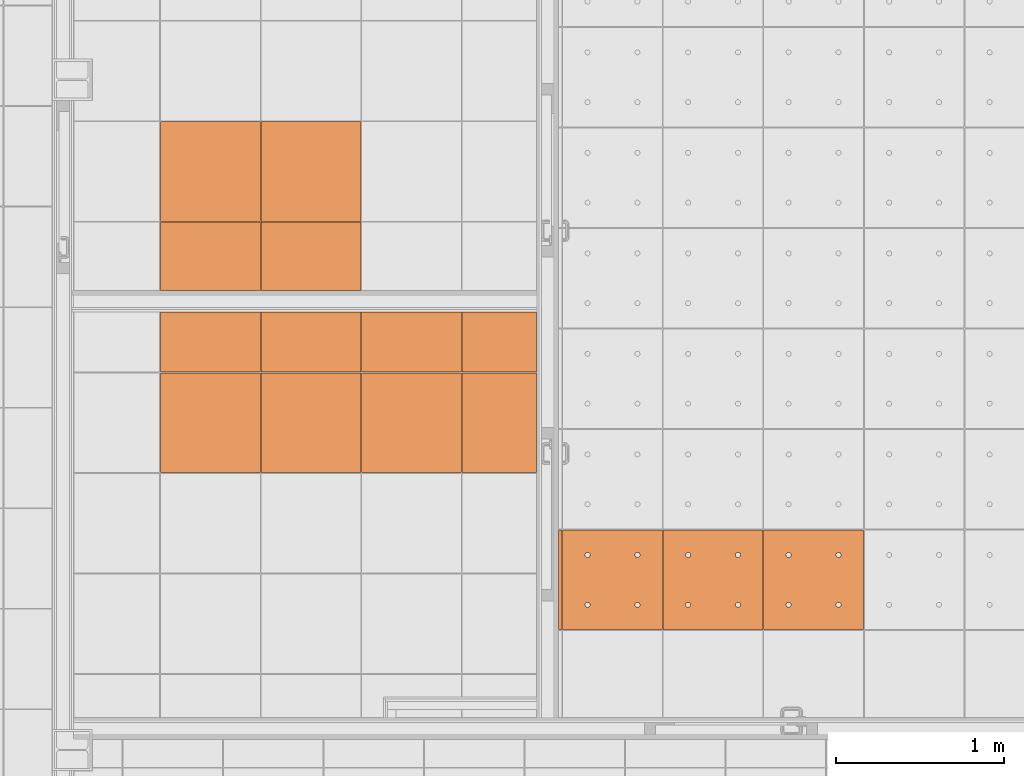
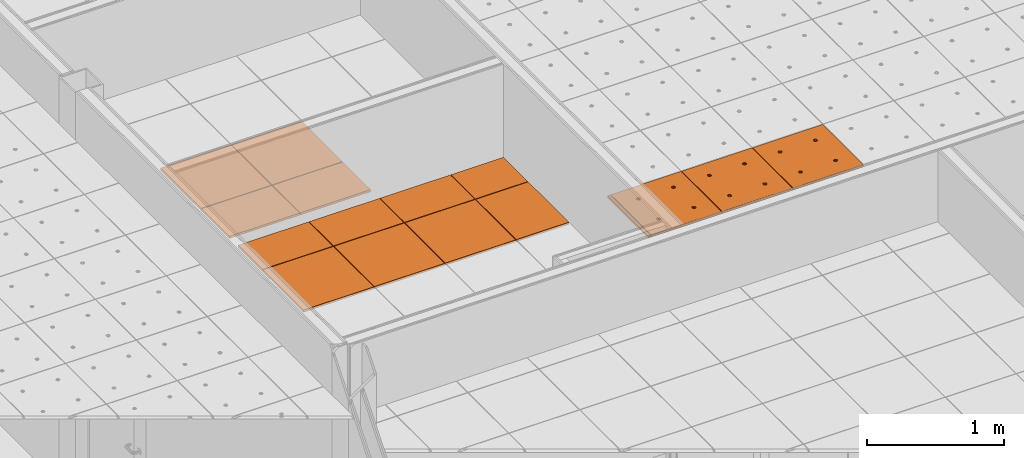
# One storey, part 285 of 338: 16 proxies, 3 elements without a shape of their own.
"""IFC2X3 building model written with IfcOpenShell, lengths in millimetres."""

from ifc_helpers import new_model, entity, si_unit, converted_unit, derived_unit, money_unit, direction, frame, origin_with_axes, place, context, subcontext, project, spatial, faceted_brep, source, transform, mapped, material, type_object, type_shapes, element, aggregate, save


model = new_model("IFC2X3")

# Units and contexts
model_context = context("Model", 3, precision=0.01, world=origin_with_axes(), true_north=direction((0.0, 1.0)))
plan_context = context("Plan", 3, precision=0.01, world=origin_with_axes(), true_north=direction((0.0, 1.0)))
body_context = subcontext(model_context, "Body", "Model", "MODEL_VIEW")
ifc_project = project(units=[si_unit("LENGTHUNIT", "METRE", prefix="MILLI"), si_unit("AREAUNIT", "SQUARE_METRE"), si_unit("VOLUMEUNIT", "CUBIC_METRE"), converted_unit("PLANEANGLEUNIT", "DEGREE", entity("IfcPlaneAngleMeasure", 0.0174532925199), si_unit("PLANEANGLEUNIT", "RADIAN"), dimensions=[0, 0, 0, 0, 0, 0, 0]), money_unit("EUR"), converted_unit("TIMEUNIT", "Year", entity("IfcTimeMeasure", 31556926.0), si_unit("TIMEUNIT", "SECOND"), dimensions=[0, 0, 1, 0, 0, 0, 0]), si_unit("MASSUNIT", "GRAM", prefix="KILO"), si_unit("THERMODYNAMICTEMPERATUREUNIT", "DEGREE_CELSIUS"), si_unit("LUMINOUSINTENSITYUNIT", "LUMEN"), si_unit("ENERGYUNIT", "JOULE", prefix="MEGA"), derived_unit("THERMALCONDUCTANCEUNIT", [(si_unit("POWERUNIT", "WATT"), 1), (si_unit("LENGTHUNIT", "METRE"), -1), (si_unit("THERMODYNAMICTEMPERATUREUNIT", "KELVIN"), -1)]), derived_unit("SPECIFICHEATCAPACITYUNIT", [(si_unit("ENERGYUNIT", "JOULE"), 1), (si_unit("MASSUNIT", "GRAM", prefix="KILO"), -1), (si_unit("THERMODYNAMICTEMPERATUREUNIT", "KELVIN"), -1)]), derived_unit("MASSDENSITYUNIT", [(si_unit("MASSUNIT", "GRAM", prefix="KILO"), 1), (si_unit("VOLUMEUNIT", "CUBIC_METRE"), -1)])], contexts=[model_context, plan_context])

# Site, building, storey
site_placement = place(None, origin_with_axes())
site = spatial("IfcSite", under=ifc_project, at=site_placement, Name="Fortuinstraat Woensdrecht", CompositionType="ELEMENT")
building_placement = place(site_placement, origin_with_axes())
building = spatial("IfcBuilding", under=site, at=building_placement, Name="IKC Fortuna", CompositionType="ELEMENT")
storey_placement = place(building_placement, origin_with_axes())
storey = spatial("IfcBuildingStorey", under=building, at=storey_placement, Name="00 begane grond", CompositionType="ELEMENT", Elevation=0.0)

# Covering, proxies
covering_type = type_object("IfcCoveringType", Name="Curtain Wall Type", PredefinedType="CEILING")
covering_1_placement = place(storey_placement, frame((22594.4446507, 31013.6071773, 2810.0), z_axis=(0.0, 0.0, 1.0), x_axis=(1.0, 0.0, 0.0)))
covering_1 = element("IfcCovering", 1, at=covering_1_placement, inside=storey, type_object=covering_type, Name="45_Plafondafwerking_P02", PredefinedType="CEILING")
ifc_material = material(Name="Gipsplaat")
building_element_proxy_type_1 = type_object("IfcBuildingElementProxyType", Name="Distinct Panel 600 x 600 x 20", PredefinedType="NOTDEFINED")
shared_shape_1 = source(origin_with_axes(), body_context, "Body", "Brep", [
    faceted_brep([(2.49999999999, 2.5, -10.0), (597.5, 2.49999999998, -10.0), (597.5, 2.49999999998, 10.0), (2.49999999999, 2.5, 10.0), (2.50000000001, 597.5, -10.0), (597.5, 597.5, -10.0), (597.5, 597.5, 10.0), (2.50000000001, 597.5, 10.0)], [[[0, 1, 2, 3]], [[0, 4, 5, 1]], [[1, 5, 6, 2]], [[3, 2, 6, 7]], [[4, 0, 3, 7]], [[5, 4, 7, 6]]]),
])
type_shapes(building_element_proxy_type_1, [shared_shape_1])
proxy_1_placement = place(covering_1_placement, frame((-600.0, 506.204592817, 0.0), z_axis=(0.0, 0.0, 1.0), x_axis=(1.0, 0.0, 0.0)))
proxy_1 = element("IfcBuildingElementProxy", 2, at=proxy_1_placement, type_object=building_element_proxy_type_1, material=ifc_material, Name="__Panel-D", context=body_context, shape_type="MappedRepresentation", body=[
    mapped(shared_shape_1, transform((300.0, 300.0, 0.0), x_axis=(-1.0, 0.0, 0.0), y_axis=(0.0, -1.0, 0.0), z_axis=(0.0, 0.0, 1.0))),
])
proxy_2_placement = place(covering_1_placement, frame((-1200.0, 506.204592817, 0.0), z_axis=(0.0, 0.0, 1.0), x_axis=(1.0, 0.0, 0.0)))
proxy_2 = element("IfcBuildingElementProxy", 3, at=proxy_2_placement, type_object=building_element_proxy_type_1, material=ifc_material, Name="__Panel-D", context=body_context, shape_type="MappedRepresentation", body=[
    mapped(shared_shape_1, transform((300.0, 300.0, 0.0), x_axis=(-1.0, 0.0, 0.0), y_axis=(0.0, -1.0, 0.0), z_axis=(0.0, 0.0, 1.0))),
])

covering_2_placement = place(storey_placement, frame((20835.6898058, 28819.9024925, 2810.0), z_axis=(0.0, 0.0, 1.0), x_axis=(1.0, 0.0, 0.0)))
covering_2 = element("IfcCovering", 4, at=covering_2_placement, inside=storey, type_object=covering_type, Name="45_Plafondafwerking_P02", PredefinedType="CEILING")
proxy_3_placement = place(covering_2_placement, frame((558.754846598, 1200.0, 0.0), z_axis=(0.0, 0.0, 1.0), x_axis=(1.0, 0.0, 0.0)))
proxy_3 = element("IfcBuildingElementProxy", 5, at=proxy_3_placement, type_object=building_element_proxy_type_1, material=ifc_material, Name="__Panel-D", context=body_context, shape_type="MappedRepresentation", body=[
    mapped(shared_shape_1, transform((300.0, 300.0, 0.0), x_axis=(-1.0, 0.0, 0.0), y_axis=(0.0, -1.0, 0.0), z_axis=(0.0, 0.0, 1.0))),
])
proxy_4_placement = place(covering_2_placement, frame((1758.7548466, 1200.0, 0.0), z_axis=(0.0, 0.0, 1.0), x_axis=(1.0, 0.0, 0.0)))
proxy_4 = element("IfcBuildingElementProxy", 6, at=proxy_4_placement, type_object=building_element_proxy_type_1, material=ifc_material, Name="__Panel-D", context=body_context, shape_type="MappedRepresentation", body=[
    mapped(shared_shape_1, transform((300.0, 300.0, 0.0), x_axis=(-1.0, 0.0, 0.0), y_axis=(0.0, -1.0, 0.0), z_axis=(0.0, 0.0, 1.0))),
])
proxy_5_placement = place(covering_2_placement, frame((1158.7548466, 1200.0, 0.0), z_axis=(0.0, 0.0, 1.0), x_axis=(1.0, 0.0, 0.0)))
proxy_5 = element("IfcBuildingElementProxy", 7, at=proxy_5_placement, type_object=building_element_proxy_type_1, material=ifc_material, Name="__Panel-D", context=body_context, shape_type="MappedRepresentation", body=[
    mapped(shared_shape_1, transform((300.0, 300.0, 0.0), x_axis=(-1.0, 0.0, 0.0), y_axis=(0.0, -1.0, 0.0), z_axis=(0.0, 0.0, 1.0))),
])
building_element_proxy_type_2 = type_object("IfcBuildingElementProxyType", Name="Distinct Panel 450 x 600 x 20", PredefinedType="NOTDEFINED")
shared_shape_2 = source(origin_with_axes(), body_context, "Body", "Brep", [
    faceted_brep([(152.589639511, 2.5, -10.0), (597.5, 2.49999999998, -10.0), (597.5, 2.49999999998, 10.0), (152.589639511, 2.5, 10.0), (152.589639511, 597.5, -10.0), (597.5, 597.5, -10.0), (597.5, 597.5, 10.0), (152.589639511, 597.5, 10.0)], [[[0, 1, 2, 3]], [[0, 4, 5, 1]], [[1, 5, 6, 2]], [[3, 2, 6, 7]], [[4, 0, 3, 7]], [[5, 4, 7, 6]]]),
])
type_shapes(building_element_proxy_type_2, [shared_shape_2])
proxy_6_placement = place(covering_2_placement, frame((2283.71002588, 1200.0, 0.0), z_axis=(0.0, 0.0, 1.0), x_axis=(1.0, 0.0, 0.0)))
proxy_6 = element("IfcBuildingElementProxy", 8, at=proxy_6_placement, type_object=building_element_proxy_type_2, material=ifc_material, Name="__Panel-D", context=body_context, shape_type="MappedRepresentation", body=[
    mapped(shared_shape_2, transform((375.044820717, 300.0, 0.0), x_axis=(-1.0, 0.0, 0.0), y_axis=(0.0, -1.0, 0.0), z_axis=(0.0, 0.0, 1.0))),
])

# Proxy
building_element_proxy_type_3 = type_object("IfcBuildingElementProxyType", Name="Distinct Panel 600 x 412 x 20", PredefinedType="NOTDEFINED")
shared_shape_3 = source(origin_with_axes(), body_context, "Body", "Brep", [
    faceted_brep([(2.49999999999, 2.49999924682, -10.0), (597.5, 2.49999924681, -10.0), (597.5, 2.49999924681, 10.0), (2.49999999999, 2.49999924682, 10.0), (2.5, 409.909179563, -10.0), (597.5, 409.909188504, -10.0), (597.5, 409.909188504, 10.0), (2.5, 409.909179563, 10.0)], [[[0, 1, 2, 3]], [[0, 4, 5, 1]], [[1, 5, 6, 2]], [[3, 2, 6, 7]], [[4, 0, 3, 7]], [[5, 4, 7, 6]]]),
])
type_shapes(building_element_proxy_type_3, [shared_shape_3])
proxy_7_placement = place(covering_1_placement, frame((-1200.0, -1.43508671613e-06, 0.0), z_axis=(0.0, 0.0, 1.0), x_axis=(1.0, 0.0, 0.0)))
proxy_7 = element("IfcBuildingElementProxy", 9, at=proxy_7_placement, type_object=building_element_proxy_type_3, material=ifc_material, Name="__Panel-D", context=body_context, shape_type="MappedRepresentation", body=[
    mapped(shared_shape_3, transform((300.0, 206.204594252, 0.0), x_axis=(-1.0, 0.0, 0.0), y_axis=(0.0, -1.0, 0.0), z_axis=(0.0, 0.0, 1.0))),
])

proxy_8_placement = place(covering_1_placement, frame((-600.0, -1.43507605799e-06, 0.0), z_axis=(0.0, 0.0, 1.0), x_axis=(1.0, 0.0, 0.0)))
proxy_8 = element("IfcBuildingElementProxy", 10, at=proxy_8_placement, type_object=building_element_proxy_type_3, material=ifc_material, Name="__Panel-D", context=body_context, shape_type="MappedRepresentation", body=[
    mapped(shared_shape_3, transform((300.0, 206.204594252, 0.0), x_axis=(-1.0, 0.0, 0.0), y_axis=(0.0, -1.0, 0.0), z_axis=(0.0, 0.0, 1.0))),
])

aggregate(covering_1, [proxy_1, proxy_2, proxy_7, proxy_8])

building_element_proxy_type_4 = type_object("IfcBuildingElementProxyType", Name="Distinct Panel 600 x 363 x 20", PredefinedType="NOTDEFINED")
shared_shape_4 = source(origin_with_axes(), body_context, "Body", "Brep", [
    faceted_brep([(2.5, 239.999928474, -10.0), (597.5, 239.999919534, -10.0), (597.5, 239.999919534, 10.0), (2.5, 239.999928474, 10.0), (2.50000000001, 597.5, -10.0), (597.5, 597.5, -10.0), (597.5, 597.5, 10.0), (2.50000000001, 597.5, 10.0)], [[[0, 1, 2, 3]], [[0, 4, 5, 1]], [[1, 5, 6, 2]], [[3, 2, 6, 7]], [[4, 0, 3, 7]], [[5, 4, 7, 6]]]),
])
proxy_9_placement = place(covering_2_placement, frame((558.754846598, 1681.25004602, 0.0), z_axis=(0.0, 0.0, 1.0), x_axis=(1.0, 0.0, 0.0)))
proxy_9 = element("IfcBuildingElementProxy", 11, at=proxy_9_placement, type_object=building_element_proxy_type_4, material=ifc_material, Name="__Panel-D", context=body_context, shape_type="MappedRepresentation", body=[
    mapped(shared_shape_4, transform((300.0, 418.749981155, 0.0), x_axis=(-1.0, 0.0, 0.0), y_axis=(0.0, -1.0, 0.0), z_axis=(0.0, 0.0, 1.0))),
])

building_element_proxy_type_5 = type_object("IfcBuildingElementProxyType", Name="Distinct Panel 450 x 363 x 20", PredefinedType="NOTDEFINED")
shared_shape_5 = source(origin_with_axes(), body_context, "Body", "Brep", [
    faceted_brep([(152.589641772, 239.999924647, -10.0), (597.499999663, 239.999931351, -10.0), (597.499999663, 239.999931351, 10.0), (152.589641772, 239.999924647, 10.0), (152.589641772, 597.499999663, -10.0), (597.499999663, 597.499999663, -10.0), (597.499999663, 597.499999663, 10.0), (152.589641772, 597.499999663, 10.0)], [[[0, 1, 2, 3]], [[0, 4, 5, 1]], [[1, 5, 6, 2]], [[3, 2, 6, 7]], [[4, 0, 3, 7]], [[5, 4, 7, 6]]]),
])
type_shapes(building_element_proxy_type_5, [shared_shape_5])
proxy_10_placement = place(covering_2_placement, frame((2283.71002588, 1681.25004539, 0.0), z_axis=(0.0, 0.0, 1.0), x_axis=(1.0, 0.0, 0.0)))
proxy_10 = element("IfcBuildingElementProxy", 12, at=proxy_10_placement, type_object=building_element_proxy_type_5, material=ifc_material, Name="__Panel-D", context=body_context, shape_type="MappedRepresentation", body=[
    mapped(shared_shape_5, transform((375.044820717, 418.749981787, 0.0), x_axis=(-1.0, 0.0, 0.0), y_axis=(0.0, -1.0, 0.0), z_axis=(0.0, 0.0, 1.0))),
])

shared_shape_6 = source(origin_with_axes(), body_context, "Body", "Brep", [
    faceted_brep([(2.5, 239.999928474, -10.0), (597.5, 239.999928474, -10.0), (597.5, 239.999928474, 10.0), (2.5, 239.999928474, 10.0), (2.50000000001, 597.5, -10.0), (597.5, 597.5, -10.0), (597.5, 597.5, 10.0), (2.50000000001, 597.5, 10.0)], [[[0, 1, 2, 3]], [[0, 4, 5, 1]], [[1, 5, 6, 2]], [[3, 2, 6, 7]], [[4, 0, 3, 7]], [[5, 4, 7, 6]]]),
])
proxy_11_placement = place(covering_2_placement, frame((1758.7548466, 1681.25004386, 0.0), z_axis=(0.0, 0.0, 1.0), x_axis=(1.0, 0.0, 0.0)))
proxy_11 = element("IfcBuildingElementProxy", 13, at=proxy_11_placement, type_object=building_element_proxy_type_4, material=ifc_material, Name="__Panel-D", context=body_context, shape_type="MappedRepresentation", body=[
    mapped(shared_shape_6, transform((300.0, 418.749983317, 0.0), x_axis=(-1.0, 0.0, 0.0), y_axis=(0.0, -1.0, 0.0), z_axis=(0.0, 0.0, 1.0))),
])

shared_shape_7 = source(origin_with_axes(), body_context, "Body", "Brep", [
    faceted_brep([(2.5, 239.999928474, -10.0), (597.5, 239.999928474, -10.0), (597.5, 239.999928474, 10.0), (2.5, 239.999928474, 10.0), (2.50000000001, 597.5, -10.0), (597.5, 597.5, -10.0), (597.5, 597.5, 10.0), (2.50000000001, 597.5, 10.0)], [[[0, 1, 2, 3]], [[0, 4, 5, 1]], [[1, 5, 6, 2]], [[3, 2, 6, 7]], [[4, 0, 3, 7]], [[5, 4, 7, 6]]]),
])
type_shapes(building_element_proxy_type_4, [shared_shape_4, shared_shape_6, shared_shape_7])
proxy_12_placement = place(covering_2_placement, frame((1158.7548466, 1681.25004386, 0.0), z_axis=(0.0, 0.0, 1.0), x_axis=(1.0, 0.0, 0.0)))
proxy_12 = element("IfcBuildingElementProxy", 14, at=proxy_12_placement, type_object=building_element_proxy_type_4, material=ifc_material, Name="__Panel-D", context=body_context, shape_type="MappedRepresentation", body=[
    mapped(shared_shape_7, transform((300.0, 418.749983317, 0.0), x_axis=(-1.0, 0.0, 0.0), y_axis=(0.0, -1.0, 0.0), z_axis=(0.0, 0.0, 1.0))),
])

aggregate(covering_2, [proxy_6, proxy_3, proxy_9, proxy_10, proxy_4, proxy_11, proxy_5, proxy_12])

# Covering, proxies
covering_3_placement = place(storey_placement, frame((24394.3550152, 31482.3495284, 3210.0), z_axis=(0.0, 0.0, 1.0), x_axis=(1.0, 0.0, 0.0)))
covering_3 = element("IfcCovering", 15, at=covering_3_placement, inside=storey, type_object=covering_type, Name="45_Plafondafwerking_P01", PredefinedType="CEILING")
building_element_proxy_type_6 = type_object("IfcBuildingElementProxyType", Name="Main Panel 600 x 600 x 20", PredefinedType="NOTDEFINED")
shared_shape_8 = source(origin_with_axes(), body_context, "Body", "Brep", [
    faceted_brep([(2.49999999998, 2.49999999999, -10.0), (300.0, 2.49999999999, -10.0), (300.0, 2.49999999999, 10.0), (2.49999999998, 2.49999999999, 10.0), (2.49999999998, 300.0, -10.0), (2.49999999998, 597.5, -10.0), (300.0, 597.5, -10.0), (597.5, 597.5, -10.0), (597.5, 300.0, -10.0), (597.5, 2.49999999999, -10.0), (166.25, 450.06232995, -10.0), (165.79423259, 452.64711538, -10.0), (164.896546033, 455.11348892, -10.0), (163.58421608, 457.38651108, -10.0), (161.897117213, 459.39711721, -10.0), (159.886511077, 461.08421608, -10.0), (157.613488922, 462.39654603, -10.0), (155.147115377, 463.29423259, -10.0), (152.562329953, 463.75, -10.0), (149.937670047, 463.75, -10.0), (147.352884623, 463.29423259, -10.0), (144.886511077, 462.39654603, -10.0), (142.613488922, 461.08421608, -10.0), (140.602882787, 459.39711721, -10.0), (138.91578392, 457.38651108, -10.0), (137.603453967, 455.11348892, -10.0), (136.705767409, 452.64711538, -10.0), (136.25, 450.06232995, -10.0), (136.25, 448.75, -10.0), (136.25, 447.43767005, -10.0), (136.705767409, 444.85288462, -10.0), (137.603453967, 442.38651108, -10.0), (138.91578392, 440.11348892, -10.0), (140.602882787, 438.10288279, -10.0), (142.613488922, 436.41578392, -10.0), (144.886511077, 435.10345397, -10.0), (147.352884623, 434.20576741, -10.0), (149.937670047, 433.75, -10.0), (152.562329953, 433.75, -10.0), (155.147115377, 434.20576741, -10.0), (157.613488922, 435.10345397, -10.0), (159.886511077, 436.41578392, -10.0), (161.897117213, 438.10288279, -10.0), (163.58421608, 440.11348892, -10.0), (164.896546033, 442.38651108, -10.0), (165.79423259, 444.85288462, -10.0), (166.25, 447.43767005, -10.0), (463.75, 450.06232995, -10.0), (463.29423259, 452.64711538, -10.0), (462.396546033, 455.11348892, -10.0), (461.08421608, 457.38651108, -10.0), (459.397117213, 459.39711721, -10.0), (457.386511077, 461.08421608, -10.0), (455.113488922, 462.39654603, -10.0), (452.647115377, 463.29423259, -10.0), (450.062329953, 463.75, -10.0), (447.437670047, 463.75, -10.0), (444.852884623, 463.29423259, -10.0), (442.386511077, 462.39654603, -10.0), (440.113488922, 461.08421608, -10.0), (438.102882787, 459.39711721, -10.0), (436.41578392, 457.38651108, -10.0), (435.103453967, 455.11348892, -10.0), (434.205767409, 452.64711538, -10.0), (433.75, 450.06232995, -10.0), (433.75, 448.75, -10.0), (433.75, 447.43767005, -10.0), (434.205767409, 444.85288462, -10.0), (435.103453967, 442.38651108, -10.0), (436.41578392, 440.11348892, -10.0), (438.102882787, 438.10288279, -10.0), (440.113488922, 436.41578392, -10.0), (442.386511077, 435.10345397, -10.0), (444.852884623, 434.20576741, -10.0), (447.437670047, 433.75, -10.0), (450.062329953, 433.75, -10.0), (452.647115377, 434.20576741, -10.0), (455.113488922, 435.10345397, -10.0), (457.386511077, 436.41578392, -10.0), (459.397117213, 438.10288279, -10.0), (461.08421608, 440.11348892, -10.0), (462.396546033, 442.38651108, -10.0), (463.29423259, 444.85288462, -10.0), (463.75, 447.43767005, -10.0), (463.75, 152.56232995, -10.0), (463.29423259, 155.14711538, -10.0), (462.396546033, 157.61348892, -10.0), (461.08421608, 159.88651108, -10.0), (459.397117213, 161.89711721, -10.0), (457.386511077, 163.58421608, -10.0), (455.113488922, 164.89654603, -10.0), (452.647115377, 165.79423259, -10.0), (450.062329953, 166.25, -10.0), (447.437670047, 166.25, -10.0), (444.852884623, 165.79423259, -10.0), (442.386511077, 164.89654603, -10.0), (440.113488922, 163.58421608, -10.0), (438.102882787, 161.89711721, -10.0), (436.41578392, 159.88651108, -10.0), (435.103453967, 157.61348892, -10.0), (434.205767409, 155.14711538, -10.0), (433.75, 152.56232995, -10.0), (433.75, 151.25, -10.0), (433.75, 149.93767005, -10.0), (434.205767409, 147.35288462, -10.0), (435.103453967, 144.88651108, -10.0), (436.41578392, 142.61348892, -10.0), (438.102882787, 140.60288279, -10.0), (440.113488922, 138.91578392, -10.0), (442.386511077, 137.60345397, -10.0), (444.852884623, 136.70576741, -10.0), (447.437670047, 136.25, -10.0), (450.062329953, 136.25, -10.0), (452.647115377, 136.70576741, -10.0), (455.113488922, 137.60345397, -10.0), (457.386511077, 138.91578392, -10.0), (459.397117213, 140.60288279, -10.0), (461.08421608, 142.61348892, -10.0), (462.396546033, 144.88651108, -10.0), (463.29423259, 147.35288462, -10.0), (463.75, 149.93767005, -10.0), (166.25, 152.56232995, -10.0), (165.79423259, 155.14711538, -10.0), (164.896546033, 157.61348892, -10.0), (163.58421608, 159.88651108, -10.0), (161.897117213, 161.89711721, -10.0), (159.886511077, 163.58421608, -10.0), (157.613488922, 164.89654603, -10.0), (155.147115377, 165.79423259, -10.0), (152.562329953, 166.25, -10.0), (149.937670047, 166.25, -10.0), (147.352884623, 165.79423259, -10.0), (144.886511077, 164.89654603, -10.0), (142.613488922, 163.58421608, -10.0), (140.602882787, 161.89711721, -10.0), (138.91578392, 159.88651108, -10.0), (137.603453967, 157.61348892, -10.0), (136.705767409, 155.14711538, -10.0), (136.25, 152.56232995, -10.0), (136.25, 151.25, -10.0), (136.25, 149.93767005, -10.0), (136.705767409, 147.35288462, -10.0), (137.603453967, 144.88651108, -10.0), (138.91578392, 142.61348892, -10.0), (140.602882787, 140.60288279, -10.0), (142.613488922, 138.91578392, -10.0), (144.886511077, 137.60345397, -10.0), (147.352884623, 136.70576741, -10.0), (149.937670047, 136.25, -10.0), (152.562329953, 136.25, -10.0), (155.147115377, 136.70576741, -10.0), (157.613488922, 137.60345397, -10.0), (159.886511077, 138.91578392, -10.0), (161.897117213, 140.60288279, -10.0), (163.58421608, 142.61348892, -10.0), (164.896546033, 144.88651108, -10.0), (165.79423259, 147.35288462, -10.0), (166.25, 149.93767005, -10.0), (597.5, 2.49999999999, 10.0), (597.5, 300.0, 10.0), (597.5, 597.5, 10.0), (300.0, 597.5, 10.0), (2.49999999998, 597.5, 10.0), (2.49999999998, 300.0, 10.0), (166.25, 450.06232995, 10.0), (166.25, 447.43767005, 10.0), (165.79423259, 444.85288462, 10.0), (164.896546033, 442.38651108, 10.0), (163.58421608, 440.11348892, 10.0), (161.897117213, 438.10288279, 10.0), (159.886511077, 436.41578392, 10.0), (157.613488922, 435.10345397, 10.0), (155.147115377, 434.20576741, 10.0), (152.562329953, 433.75, 10.0), (149.937670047, 433.75, 10.0), (147.352884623, 434.20576741, 10.0), (144.886511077, 435.10345397, 10.0), (142.613488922, 436.41578392, 10.0), (140.602882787, 438.10288279, 10.0), (138.91578392, 440.11348892, 10.0), (137.603453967, 442.38651108, 10.0), (136.705767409, 444.85288462, 10.0), (136.25, 447.43767005, 10.0), (136.25, 448.75, 10.0), (136.25, 450.06232995, 10.0), (136.705767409, 452.64711538, 10.0), (137.603453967, 455.11348892, 10.0), (138.91578392, 457.38651108, 10.0), (140.602882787, 459.39711721, 10.0), (142.613488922, 461.08421608, 10.0), (144.886511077, 462.39654603, 10.0), (147.352884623, 463.29423259, 10.0), (149.937670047, 463.75, 10.0), (152.562329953, 463.75, 10.0), (155.147115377, 463.29423259, 10.0), (157.613488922, 462.39654603, 10.0), (159.886511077, 461.08421608, 10.0), (161.897117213, 459.39711721, 10.0), (163.58421608, 457.38651108, 10.0), (164.896546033, 455.11348892, 10.0), (165.79423259, 452.64711538, 10.0), (463.75, 450.06232995, 10.0), (463.75, 447.43767005, 10.0), (463.29423259, 444.85288462, 10.0), (462.396546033, 442.38651108, 10.0), (461.08421608, 440.11348892, 10.0), (459.397117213, 438.10288279, 10.0), (457.386511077, 436.41578392, 10.0), (455.113488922, 435.10345397, 10.0), (452.647115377, 434.20576741, 10.0), (450.062329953, 433.75, 10.0), (447.437670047, 433.75, 10.0), (444.852884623, 434.20576741, 10.0), (442.386511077, 435.10345397, 10.0), (440.113488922, 436.41578392, 10.0), (438.102882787, 438.10288279, 10.0), (436.41578392, 440.11348892, 10.0), (435.103453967, 442.38651108, 10.0), (434.205767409, 444.85288462, 10.0), (433.75, 447.43767005, 10.0), (433.75, 448.75, 10.0), (433.75, 450.06232995, 10.0), (434.205767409, 452.64711538, 10.0), (435.103453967, 455.11348892, 10.0), (436.41578392, 457.38651108, 10.0), (438.102882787, 459.39711721, 10.0), (440.113488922, 461.08421608, 10.0), (442.386511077, 462.39654603, 10.0), (444.852884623, 463.29423259, 10.0), (447.437670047, 463.75, 10.0), (450.062329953, 463.75, 10.0), (452.647115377, 463.29423259, 10.0), (455.113488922, 462.39654603, 10.0), (457.386511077, 461.08421608, 10.0), (459.397117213, 459.39711721, 10.0), (461.08421608, 457.38651108, 10.0), (462.396546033, 455.11348892, 10.0), (463.29423259, 452.64711538, 10.0), (463.75, 152.56232995, 10.0), (463.75, 149.93767005, 10.0), (463.29423259, 147.35288462, 10.0), (462.396546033, 144.88651108, 10.0), (461.08421608, 142.61348892, 10.0), (459.397117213, 140.60288279, 10.0), (457.386511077, 138.91578392, 10.0), (455.113488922, 137.60345397, 10.0), (452.647115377, 136.70576741, 10.0), (450.062329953, 136.25, 10.0), (447.437670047, 136.25, 10.0), (444.852884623, 136.70576741, 10.0), (442.386511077, 137.60345397, 10.0), (440.113488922, 138.91578392, 10.0), (438.102882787, 140.60288279, 10.0), (436.41578392, 142.61348892, 10.0), (435.103453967, 144.88651108, 10.0), (434.205767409, 147.35288462, 10.0), (433.75, 149.93767005, 10.0), (433.75, 151.25, 10.0), (433.75, 152.56232995, 10.0), (434.205767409, 155.14711538, 10.0), (435.103453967, 157.61348892, 10.0), (436.41578392, 159.88651108, 10.0), (438.102882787, 161.89711721, 10.0), (440.113488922, 163.58421608, 10.0), (442.386511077, 164.89654603, 10.0), (444.852884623, 165.79423259, 10.0), (447.437670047, 166.25, 10.0), (450.062329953, 166.25, 10.0), (452.647115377, 165.79423259, 10.0), (455.113488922, 164.89654603, 10.0), (457.386511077, 163.58421608, 10.0), (459.397117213, 161.89711721, 10.0), (461.08421608, 159.88651108, 10.0), (462.396546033, 157.61348892, 10.0), (463.29423259, 155.14711538, 10.0), (166.25, 152.56232995, 10.0), (166.25, 149.93767005, 10.0), (165.79423259, 147.35288462, 10.0), (164.896546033, 144.88651108, 10.0), (163.58421608, 142.61348892, 10.0), (161.897117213, 140.60288279, 10.0), (159.886511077, 138.91578392, 10.0), (157.613488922, 137.60345397, 10.0), (155.147115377, 136.70576741, 10.0), (152.562329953, 136.25, 10.0), (149.937670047, 136.25, 10.0), (147.352884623, 136.70576741, 10.0), (144.886511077, 137.60345397, 10.0), (142.613488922, 138.91578392, 10.0), (140.602882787, 140.60288279, 10.0), (138.91578392, 142.61348892, 10.0), (137.603453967, 144.88651108, 10.0), (136.705767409, 147.35288462, 10.0), (136.25, 149.93767005, 10.0), (136.25, 151.25, 10.0), (136.25, 152.56232995, 10.0), (136.705767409, 155.14711538, 10.0), (137.603453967, 157.61348892, 10.0), (138.91578392, 159.88651108, 10.0), (140.602882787, 161.89711721, 10.0), (142.613488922, 163.58421608, 10.0), (144.886511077, 164.89654603, 10.0), (147.352884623, 165.79423259, 10.0), (149.937670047, 166.25, 10.0), (152.562329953, 166.25, 10.0), (155.147115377, 165.79423259, 10.0), (157.613488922, 164.89654603, 10.0), (159.886511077, 163.58421608, 10.0), (161.897117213, 161.89711721, 10.0), (163.58421608, 159.88651108, 10.0), (164.896546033, 157.61348892, 10.0), (165.79423259, 155.14711538, 10.0)], [[[0, 1, 2, 3]], [[0, 4, 5, 6, 7, 8, 9, 1], [10, 11, 12, 13, 14, 15, 16, 17, 18, 19, 20, 21, 22, 23, 24, 25, 26, 27, 28, 29, 30, 31, 32, 33, 34, 35, 36, 37, 38, 39, 40, 41, 42, 43, 44, 45, 46], [47, 48, 49, 50, 51, 52, 53, 54, 55, 56, 57, 58, 59, 60, 61, 62, 63, 64, 65, 66, 67, 68, 69, 70, 71, 72, 73, 74, 75, 76, 77, 78, 79, 80, 81, 82, 83], [84, 85, 86, 87, 88, 89, 90, 91, 92, 93, 94, 95, 96, 97, 98, 99, 100, 101, 102, 103, 104, 105, 106, 107, 108, 109, 110, 111, 112, 113, 114, 115, 116, 117, 118, 119, 120], [121, 122, 123, 124, 125, 126, 127, 128, 129, 130, 131, 132, 133, 134, 135, 136, 137, 138, 139, 140, 141, 142, 143, 144, 145, 146, 147, 148, 149, 150, 151, 152, 153, 154, 155, 156, 157]], [[1, 9, 158, 2]], [[3, 2, 158, 159, 160, 161, 162, 163], [164, 165, 166, 167, 168, 169, 170, 171, 172, 173, 174, 175, 176, 177, 178, 179, 180, 181, 182, 183, 184, 185, 186, 187, 188, 189, 190, 191, 192, 193, 194, 195, 196, 197, 198, 199, 200], [201, 202, 203, 204, 205, 206, 207, 208, 209, 210, 211, 212, 213, 214, 215, 216, 217, 218, 219, 220, 221, 222, 223, 224, 225, 226, 227, 228, 229, 230, 231, 232, 233, 234, 235, 236, 237], [238, 239, 240, 241, 242, 243, 244, 245, 246, 247, 248, 249, 250, 251, 252, 253, 254, 255, 256, 257, 258, 259, 260, 261, 262, 263, 264, 265, 266, 267, 268, 269, 270, 271, 272, 273, 274], [275, 276, 277, 278, 279, 280, 281, 282, 283, 284, 285, 286, 287, 288, 289, 290, 291, 292, 293, 294, 295, 296, 297, 298, 299, 300, 301, 302, 303, 304, 305, 306, 307, 308, 309, 310, 311]], [[4, 0, 3, 163]], [[5, 4, 163, 162]], [[6, 5, 162, 161]], [[7, 6, 161, 160]], [[8, 7, 160, 159]], [[9, 8, 159, 158]], [[11, 10, 164, 200]], [[12, 11, 200, 199]], [[13, 12, 199, 198]], [[14, 13, 198, 197]], [[15, 14, 197, 196]], [[16, 15, 196, 195]], [[17, 16, 195, 194]], [[18, 17, 194, 193]], [[19, 18, 193, 192]], [[20, 19, 192, 191]], [[21, 20, 191, 190]], [[22, 21, 190, 189]], [[23, 22, 189, 188]], [[24, 23, 188, 187]], [[25, 24, 187, 186]], [[26, 25, 186, 185]], [[27, 26, 185, 184]], [[28, 27, 184, 183]], [[29, 28, 183, 182]], [[30, 29, 182, 181]], [[31, 30, 181, 180]], [[32, 31, 180, 179]], [[33, 32, 179, 178]], [[34, 33, 178, 177]], [[35, 34, 177, 176]], [[36, 35, 176, 175]], [[37, 36, 175, 174]], [[38, 37, 174, 173]], [[39, 38, 173, 172]], [[40, 39, 172, 171]], [[41, 40, 171, 170]], [[42, 41, 170, 169]], [[43, 42, 169, 168]], [[44, 43, 168, 167]], [[45, 44, 167, 166]], [[46, 45, 166, 165]], [[10, 46, 165, 164]], [[48, 47, 201, 237]], [[49, 48, 237, 236]], [[50, 49, 236, 235]], [[51, 50, 235, 234]], [[52, 51, 234, 233]], [[53, 52, 233, 232]], [[54, 53, 232, 231]], [[55, 54, 231, 230]], [[56, 55, 230, 229]], [[57, 56, 229, 228]], [[58, 57, 228, 227]], [[59, 58, 227, 226]], [[60, 59, 226, 225]], [[61, 60, 225, 224]], [[62, 61, 224, 223]], [[63, 62, 223, 222]], [[64, 63, 222, 221]], [[65, 64, 221, 220]], [[66, 65, 220, 219]], [[67, 66, 219, 218]], [[68, 67, 218, 217]], [[69, 68, 217, 216]], [[70, 69, 216, 215]], [[71, 70, 215, 214]], [[72, 71, 214, 213]], [[73, 72, 213, 212]], [[74, 73, 212, 211]], [[75, 74, 211, 210]], [[76, 75, 210, 209]], [[77, 76, 209, 208]], [[78, 77, 208, 207]], [[79, 78, 207, 206]], [[80, 79, 206, 205]], [[81, 80, 205, 204]], [[82, 81, 204, 203]], [[83, 82, 203, 202]], [[47, 83, 202, 201]], [[85, 84, 238, 274]], [[86, 85, 274, 273]], [[87, 86, 273, 272]], [[88, 87, 272, 271]], [[89, 88, 271, 270]], [[90, 89, 270, 269]], [[91, 90, 269, 268]], [[92, 91, 268, 267]], [[93, 92, 267, 266]], [[94, 93, 266, 265]], [[95, 94, 265, 264]], [[96, 95, 264, 263]], [[97, 96, 263, 262]], [[98, 97, 262, 261]], [[99, 98, 261, 260]], [[100, 99, 260, 259]], [[101, 100, 259, 258]], [[102, 101, 258, 257]], [[103, 102, 257, 256]], [[104, 103, 256, 255]], [[105, 104, 255, 254]], [[106, 105, 254, 253]], [[107, 106, 253, 252]], [[108, 107, 252, 251]], [[109, 108, 251, 250]], [[110, 109, 250, 249]], [[111, 110, 249, 248]], [[112, 111, 248, 247]], [[113, 112, 247, 246]], [[114, 113, 246, 245]], [[115, 114, 245, 244]], [[116, 115, 244, 243]], [[117, 116, 243, 242]], [[118, 117, 242, 241]], [[119, 118, 241, 240]], [[120, 119, 240, 239]], [[84, 120, 239, 238]], [[122, 121, 275, 311]], [[123, 122, 311, 310]], [[124, 123, 310, 309]], [[125, 124, 309, 308]], [[126, 125, 308, 307]], [[127, 126, 307, 306]], [[128, 127, 306, 305]], [[129, 128, 305, 304]], [[130, 129, 304, 303]], [[131, 130, 303, 302]], [[132, 131, 302, 301]], [[133, 132, 301, 300]], [[134, 133, 300, 299]], [[135, 134, 299, 298]], [[136, 135, 298, 297]], [[137, 136, 297, 296]], [[138, 137, 296, 295]], [[139, 138, 295, 294]], [[140, 139, 294, 293]], [[141, 140, 293, 292]], [[142, 141, 292, 291]], [[143, 142, 291, 290]], [[144, 143, 290, 289]], [[145, 144, 289, 288]], [[146, 145, 288, 287]], [[147, 146, 287, 286]], [[148, 147, 286, 285]], [[149, 148, 285, 284]], [[150, 149, 284, 283]], [[151, 150, 283, 282]], [[152, 151, 282, 281]], [[153, 152, 281, 280]], [[154, 153, 280, 279]], [[155, 154, 279, 278]], [[156, 155, 278, 277]], [[157, 156, 277, 276]], [[121, 157, 276, 275]]]),
])
type_shapes(building_element_proxy_type_6, [shared_shape_8])
proxy_13_placement = place(covering_3_placement, frame((600.0, -2400.0, 1.26121335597e-10), z_axis=(0.0, 0.0, 1.0), x_axis=(1.0, 0.0, 0.0)))
proxy_13 = element("IfcBuildingElementProxy", 16, at=proxy_13_placement, type_object=building_element_proxy_type_6, material=ifc_material, Name="__600x632 Rockfon Krios", context=body_context, shape_type="MappedRepresentation", body=[
    mapped(shared_shape_8, transform((300.0, 300.0, 0.0), x_axis=(-1.0, 0.0, 0.0), y_axis=(0.0, -1.0, 0.0), z_axis=(0.0, 0.0, 1.0))),
])
proxy_14_placement = place(covering_3_placement, frame((-600.0, -2400.0, 1.65645275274e-10), z_axis=(0.0, 0.0, 1.0), x_axis=(1.0, 0.0, 0.0)))
proxy_14 = element("IfcBuildingElementProxy", 17, at=proxy_14_placement, type_object=building_element_proxy_type_6, material=ifc_material, Name="__600x652 Rockfon Krios", context=body_context, shape_type="MappedRepresentation", body=[
    mapped(shared_shape_8, transform((300.0, 300.0, 0.0), x_axis=(-1.0, 0.0, 0.0), y_axis=(0.0, -1.0, 0.0), z_axis=(0.0, 0.0, 1.0))),
])
proxy_15_placement = place(covering_3_placement, frame((0.0, -2400.0, 1.46105350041e-10), z_axis=(0.0, 0.0, 1.0), x_axis=(1.0, 0.0, 0.0)))
proxy_15 = element("IfcBuildingElementProxy", 18, at=proxy_15_placement, type_object=building_element_proxy_type_6, material=ifc_material, Name="__600x668 Rockfon Krios", context=body_context, shape_type="MappedRepresentation", body=[
    mapped(shared_shape_8, transform((300.0, 300.0, 0.0), x_axis=(-1.0, 0.0, 0.0), y_axis=(0.0, -1.0, 0.0), z_axis=(0.0, 0.0, 1.0))),
])
building_element_proxy_type_7 = type_object("IfcBuildingElementProxyType", Name="25 x 600 x 20", PredefinedType="NOTDEFINED")
shared_shape_9 = source(origin_with_axes(), body_context, "Body", "Brep", [
    faceted_brep([(2.49999895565, 2.5, -10.0), (22.5000615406, 2.5, -10.0), (22.5000615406, 2.5, 10.0), (2.49999895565, 2.5, 10.0), (2.49999895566, 597.5, -10.0), (22.5000615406, 597.5, -10.0), (22.5000615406, 597.5, 10.0), (2.49999895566, 597.5, 10.0)], [[[0, 1, 2, 3]], [[0, 4, 5, 1]], [[1, 5, 6, 2]], [[3, 2, 6, 7]], [[4, 0, 3, 7]], [[5, 4, 7, 6]]]),
])
type_shapes(building_element_proxy_type_7, [shared_shape_9])
proxy_16_placement = place(covering_3_placement, frame((-912.500023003, -2400.0, 1.75859327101e-10), z_axis=(0.0, 0.0, 1.0), x_axis=(1.0, 0.0, 0.0)))
proxy_16 = element("IfcBuildingElementProxy", 19, at=proxy_16_placement, type_object=building_element_proxy_type_7, material=ifc_material, Name="__600x719 Rockfon Krios", context=body_context, shape_type="MappedRepresentation", body=[
    mapped(shared_shape_9, transform((12.5000230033, 300.0, 0.0), x_axis=(-1.0, 0.0, 0.0), y_axis=(0.0, -1.0, 0.0), z_axis=(0.0, 0.0, 1.0))),
])
aggregate(covering_3, [proxy_13, proxy_14, proxy_15, proxy_16])

save(model, "model.ifc")
